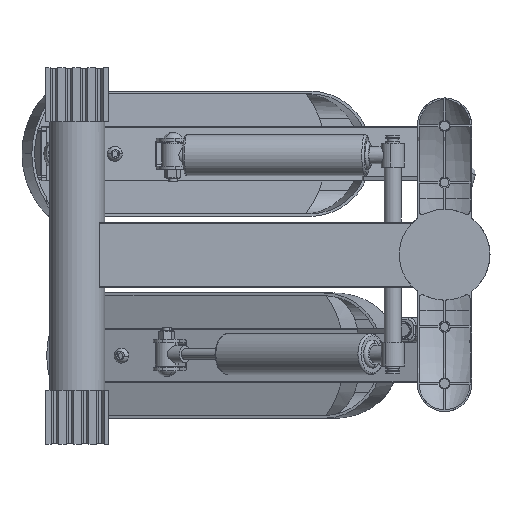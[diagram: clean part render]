
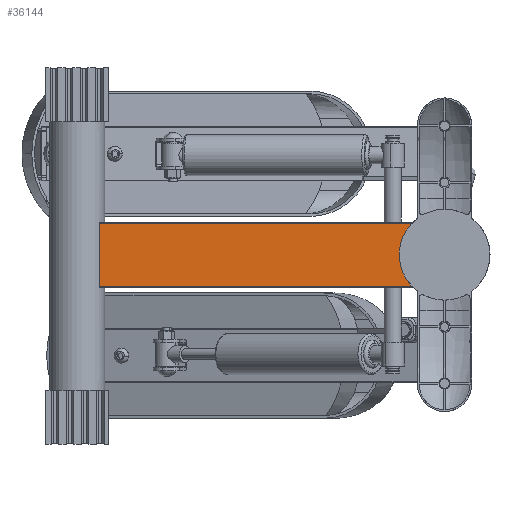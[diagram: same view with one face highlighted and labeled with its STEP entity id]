
A CAD part, front view. The second image highlights one B-rep face of the part: STEP entity #36144.
In plain terms, the highlighted planar face has unit normal (0, -1, 0).
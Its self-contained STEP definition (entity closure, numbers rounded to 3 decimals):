
#1888 = EDGE_LOOP ( 'NONE', ( #21432, #21446, #21435, #21439 ) ) ;
#4038 = AXIS2_PLACEMENT_3D ( 'NONE', #6394, #6409, #6397 ) ;
#6211 = FACE_OUTER_BOUND ( 'NONE', #1888, .T. ) ;
#6394 = CARTESIAN_POINT ( 'NONE',  ( -25.501, -15.4, 190.4 ) ) ;
#6397 = DIRECTION ( 'NONE',  ( 0., 0., -1. ) ) ;
#6406 = PLANE ( 'NONE',  #4038 ) ;
#6409 = DIRECTION ( 'NONE',  ( 0., -1., 0. ) ) ;
#14091 = EDGE_CURVE ( 'NONE', #18697, #18672, #34456, .T. ) ;
#14113 = EDGE_CURVE ( 'NONE', #18672, #18680, #34494, .T. ) ;
#14138 = EDGE_CURVE ( 'NONE', #18714, #18680, #34548, .T. ) ;
#14147 = EDGE_CURVE ( 'NONE', #18714, #18697, #34497, .T. ) ;
#18672 = VERTEX_POINT ( 'NONE', #37079 ) ;
#18680 = VERTEX_POINT ( 'NONE', #37084 ) ;
#18697 = VERTEX_POINT ( 'NONE', #37142 ) ;
#18714 = VERTEX_POINT ( 'NONE', #37126 ) ;
#21432 = ORIENTED_EDGE ( 'NONE', *, *, #14113, .T. ) ;
#21435 = ORIENTED_EDGE ( 'NONE', *, *, #14147, .T. ) ;
#21439 = ORIENTED_EDGE ( 'NONE', *, *, #14091, .T. ) ;
#21446 = ORIENTED_EDGE ( 'NONE', *, *, #14138, .F. ) ;
#22656 = AXIS2_PLACEMENT_3D ( 'NONE', #33451, #33456, #33443 ) ;
#33276 = CARTESIAN_POINT ( 'NONE',  ( -25.501, -15.4, 130. ) ) ;
#33291 = DIRECTION ( 'NONE',  ( 1., 0., 0. ) ) ;
#33443 = DIRECTION ( 'NONE',  ( 0., 0., -1. ) ) ;
#33451 = CARTESIAN_POINT ( 'NONE',  ( 340., -15.4, 160.2 ) ) ;
#33456 = DIRECTION ( 'NONE',  ( 0., 1., 0. ) ) ;
#34456 = LINE ( 'NONE', #33276, #34460 ) ;
#34460 = VECTOR ( 'NONE', #33291, 1000. ) ;
#34494 = CIRCLE ( 'NONE', #22656, 38.25 ) ;
#34497 = LINE ( 'NONE', #35389, #34499 ) ;
#34499 = VECTOR ( 'NONE', #35364, 1000. ) ;
#34547 = VECTOR ( 'NONE', #35334, 1000. ) ;
#34548 = LINE ( 'NONE', #35326, #34547 ) ;
#35326 = CARTESIAN_POINT ( 'NONE',  ( -25.501, -15.4, 190.4 ) ) ;
#35334 = DIRECTION ( 'NONE',  ( 1., 0., 0. ) ) ;
#35364 = DIRECTION ( 'NONE',  ( 0., 0., -1. ) ) ;
#35389 = CARTESIAN_POINT ( 'NONE',  ( 20.325, -15.4, 318. ) ) ;
#36144 = ADVANCED_FACE ( 'NONE', ( #6211 ), #6406, .T. ) ;
#37079 = CARTESIAN_POINT ( 'NONE',  ( 316.526, -15.4, 130. ) ) ;
#37084 = CARTESIAN_POINT ( 'NONE',  ( 316.526, -15.4, 190.4 ) ) ;
#37126 = CARTESIAN_POINT ( 'NONE',  ( 20.325, -15.4, 190.4 ) ) ;
#37142 = CARTESIAN_POINT ( 'NONE',  ( 20.325, -15.4, 130. ) ) ;
